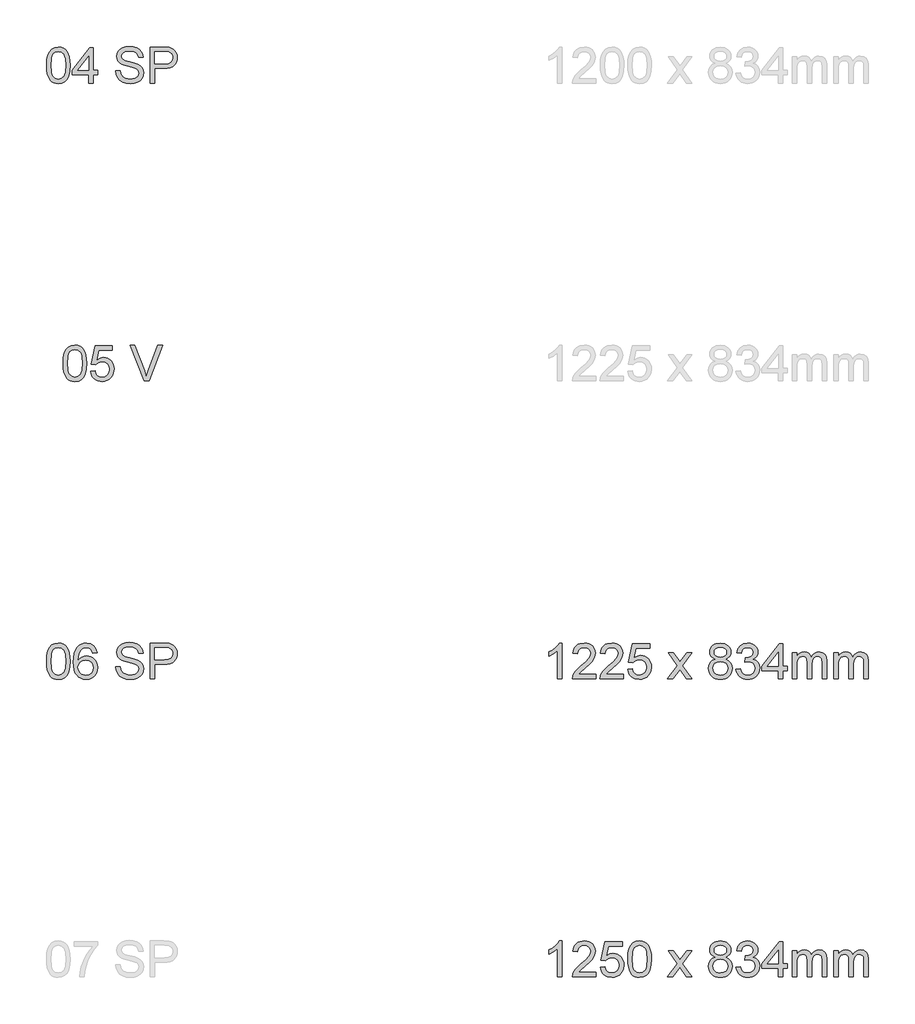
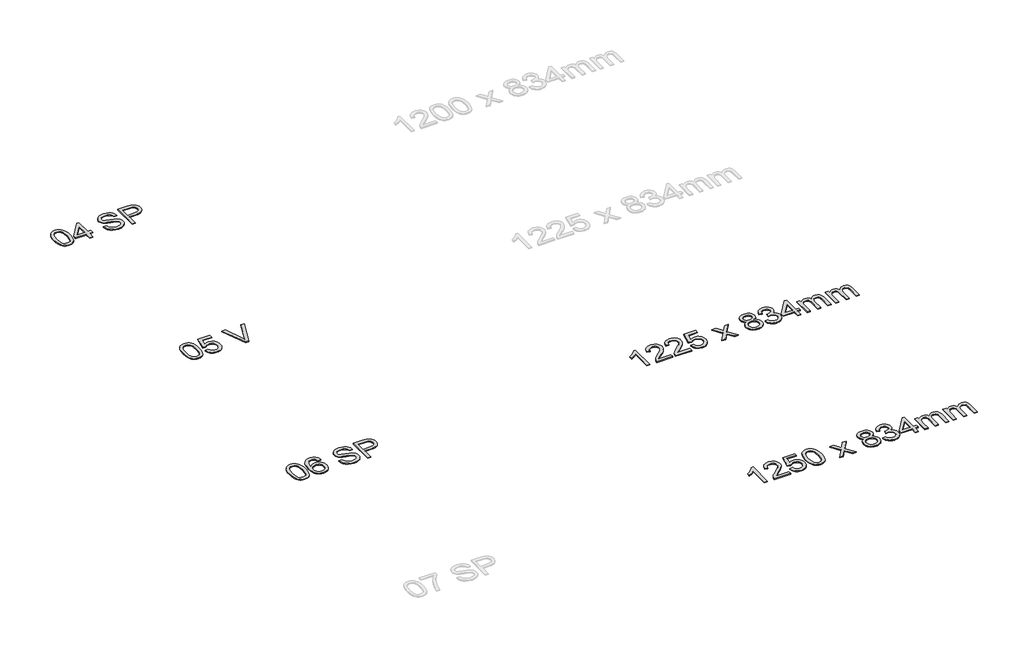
# One storey, part 22 of 67: 5 proxies.
"""IFC4 building model written with IfcOpenShell, lengths in millimetres."""

from ifc_helpers import new_model, si_unit, origin, origin_with_axes, place, context, project, spatial, polyline, outline, extrude, element, save

model = new_model("IFC4")

# Units and contexts
model_context = context("Model", 3, world=origin())
ifc_project = project(units=[si_unit("LENGTHUNIT", "METRE", prefix="MILLI")], contexts=[model_context])

# Site, building, storey
site = spatial("IfcSite", under=ifc_project)
building = spatial("IfcBuilding", under=site)
storey = spatial("IfcBuildingStorey", under=building, Name="Marelli - Linha COLAB - Planta Baixa", Elevation=0.0)

# Proxies
placement = place(None, origin())
element("IfcBuildingElementProxy", 1, Name="300mm Arial", ObjectType="300mm Arial", at=placement, inside=storey, context=model_context, shape_type="SweptSolid", body=[
    extrude(outline(polyline([(-25317.6891758, -6280.5663201), (-25355.3602921, -6280.5663201), (-25355.3602921, -6045.7104543), (-25391.0448457, -6071.1311002), (-25430.7025247, -6090.1505994), (-25430.7025247, -6054.5396222), (-25401.1156153, -6038.4447849), (-25375.4834373, -6019.2965271), (-25355.2775187, -5998.9342587), (-25341.9693875, -5979.1973896), (-25317.6891758, -5979.1973896), (-25317.6891758, -6280.5663201)])), origin_with_axes(), (0.0, 0.0, 1.0), 10.0),
    extrude(outline(polyline([(-25035.1558035, -6242.8952038), (-25035.1558035, -6280.5663201), (-25232.9291641, -6280.5663201), (-25228.8824622, -6254.5938512), (-25219.5934418, -6234.2959621), (-25206.0002021, -6214.6050783), (-25186.3369094, -6193.9944896), (-25158.8377303, -6170.9374855), (-25118.1867698, -6134.8298677), (-25093.7961935, -6108.1768171), (-25081.6009054, -6086.5453558), (-25077.5358094, -6065.5025057), (-25081.3709792, -6046.6393564), (-25092.8764886, -6030.9583863), (-25110.5624155, -6020.390976), (-25132.9388378, -6016.8685059), (-25156.4373003, -6020.3082026), (-25174.6934443, -6030.6272925), (-25186.4748652, -6047.0164354), (-25190.5491583, -6068.6662908), (-25228.2202746, -6063.9574013), (-25219.0876041, -6027.5186897), (-25210.5412455, -6012.9827524), (-25199.341538, -6000.9024273), (-25185.745999, -5991.4064733), (-25170.0121459, -5984.623649), (-25132.1294974, -5979.1973896), (-25111.9396737, -5980.7057058), (-25093.9709375, -5985.2306543), (-25078.2232888, -5992.7722352), (-25064.6967277, -6003.3304485), (-25053.8327126, -6016.1235449), (-25046.0727017, -6030.3697751), (-25041.4166952, -6046.0691393), (-25039.8646931, -6063.2216373), (-25041.5385561, -6081.238658), (-25046.5601454, -6098.942979), (-25055.4720867, -6116.9508027), (-25068.8170061, -6135.8783314), (-25090.0897824, -6158.4754829), (-25122.7852948, -6187.4921753), (-25166.1217938, -6223.7285518), (-25183.117942, -6242.8952038), (-25035.1558035, -6242.8952038)])), origin_with_axes(), (0.0, 0.0, 1.0), 10.0),
    extrude(outline(polyline([(-24804.4202161, -6242.8952038), (-24804.4202161, -6280.5663201), (-25002.1935767, -6280.5663201), (-24998.1468748, -6254.5938512), (-24988.8578544, -6234.2959621), (-24975.2646147, -6214.6050783), (-24955.6013221, -6193.9944896), (-24928.1021429, -6170.9374855), (-24887.4511825, -6134.8298677), (-24863.0606062, -6108.1768171), (-24850.865318, -6086.5453558), (-24846.800222, -6065.5025057), (-24850.6353918, -6046.6393564), (-24862.1409012, -6030.9583863), (-24879.8268281, -6020.390976), (-24902.2032505, -6016.8685059), (-24925.7017129, -6020.3082026), (-24943.9578569, -6030.6272925), (-24955.7392778, -6047.0164354), (-24959.8135709, -6068.6662908), (-24997.4846872, -6063.9574013), (-24988.3520167, -6027.5186897), (-24979.8056581, -6012.9827524), (-24968.6059506, -6000.9024273), (-24955.0104116, -5991.4064733), (-24939.2765585, -5984.623649), (-24901.3939101, -5979.1973896), (-24881.2040863, -5980.7057058), (-24863.2353501, -5985.2306543), (-24847.4877015, -5992.7722352), (-24833.9611404, -6003.3304485), (-24823.0971252, -6016.1235449), (-24815.3371143, -6030.3697751), (-24810.6811078, -6046.0691393), (-24809.1291057, -6063.2216373), (-24810.8029688, -6081.238658), (-24815.824558, -6098.942979), (-24824.7364993, -6116.9508027), (-24838.0814187, -6135.8783314), (-24859.3541951, -6158.4754829), (-24892.0497074, -6187.4921753), (-24935.3862064, -6223.7285518), (-24952.3823546, -6242.8952038), (-24804.4202161, -6242.8952038)])), origin_with_axes(), (0.0, 0.0, 1.0), 10.0),
    extrude(outline(polyline([(-24766.7490998, -6200.5151979), (-24729.0779835, -6195.8063084), (-24722.161802, -6218.421854), (-24710.0952726, -6234.6178589), (-24692.9335775, -6244.3575347), (-24670.7318991, -6247.6040933), (-24643.7293606, -6243.0883418), (-24623.4958509, -6229.5410873), (-24610.8591044, -6208.5258284), (-24606.6468555, -6181.6060634), (-24610.5923899, -6156.2589939), (-24622.4289931, -6136.8716128), (-24642.2486356, -6124.56596), (-24670.1432879, -6120.4640758), (-24688.417826, -6122.1011506), (-24703.2158793, -6127.0123753), (-24724.369094, -6144.0085235), (-24762.0402103, -6139.2996339), (-24729.0779835, -5983.9062792), (-24583.1024078, -5983.9062792), (-24583.1024078, -6021.5773955), (-24698.6173543, -6021.5773955), (-24714.7305857, -6104.5715736), (-24687.8200178, -6088.237613), (-24659.6218628, -6082.7929595), (-24641.2760476, -6084.4806181), (-24624.424753, -6089.5435941), (-24609.0679789, -6097.9818873), (-24595.2057255, -6109.7954979), (-24583.7301065, -6124.2624574), (-24575.5332358, -6140.6607973), (-24570.6151134, -6158.9905177), (-24568.9757392, -6179.2516186), (-24574.8802453, -6216.9227349), (-24582.2608778, -6233.716548), (-24592.5937633, -6249.1491977), (-24608.2471422, -6264.9543279), (-24626.5124833, -6276.2437066), (-24647.3897865, -6283.0173339), (-24670.8790519, -6285.2752096), (-24707.8787836, -6279.4718711), (-24723.5574543, -6272.217698), (-24737.3553284, -6262.0618557), (-24748.8355459, -6249.5101819), (-24757.561247, -6235.0685143), (-24766.7490998, -6200.5151979)])), origin_with_axes(), (0.0, 0.0, 1.0), 10.0),
    extrude(outline(polyline([(-24432.4179426, -6280.5663201), (-24351.9253621, -6169.3188047), (-24427.7090531, -6059.2485118), (-24382.3859913, -6059.2485118), (-24345.818521, -6112.2235191), (-24328.7487964, -6137.2394947), (-24313.9599402, -6116.7852558), (-24272.3156983, -6059.2485118), (-24226.9926365, -6059.2485118), (-24306.6023003, -6169.3188047), (-24229.9356925, -6280.5663201), (-24275.2587543, -6280.5663201), (-24321.3911565, -6213.6853733), (-24329.8524424, -6201.4716911), (-24387.0948808, -6280.5663201), (-24432.4179426, -6280.5663201)])), origin_with_axes(), (0.0, 0.0, 1.0), 10.0),
    extrude(outline(polyline([(-24033.7810126, -6114.5779638), (-24053.950143, -6104.64515), (-24068.1044028, -6091.180669), (-24076.4645211, -6074.4604323), (-24079.2512273, -6054.7603514), (-24077.733714, -6039.3966796), (-24073.1811743, -6025.3113977), (-24065.5936082, -6012.5045058), (-24054.9710156, -6000.9760037), (-24041.8238328, -5991.4478601), (-24026.662496, -5984.6420431), (-23990.2973608, -5979.1973896), (-23953.7114964, -5984.7708018), (-23938.3846128, -5991.7375671), (-23925.0350949, -6001.4910385), (-23914.2193642, -6013.2448683), (-23906.4938423, -6026.2127086), (-23901.8585292, -6040.3945595), (-23900.3134248, -6055.790421), (-23903.0633427, -6074.8559054), (-23911.3130965, -6091.2910335), (-23925.1546565, -6104.6727411), (-23944.6799934, -6114.5779638), (-23921.4942307, -6126.5249316), (-23904.6176441, -6144.1188881), (-23894.3261453, -6166.5137045), (-23890.8956457, -6192.8632524), (-23892.5970999, -6211.6528253), (-23897.7014626, -6228.8788997), (-23906.2087338, -6244.5414757), (-23918.1189134, -6258.6405532), (-23932.806602, -6270.2932154), (-23949.6464003, -6278.6165455), (-23968.6383084, -6283.6105436), (-23989.782326, -6285.2752096), (-24010.9263437, -6283.6036458), (-24029.9182517, -6278.5889543), (-24046.75805, -6270.2311353), (-24061.4457387, -6258.5301886), (-24073.3559183, -6244.3322428), (-24081.8631894, -6228.4834266), (-24086.9675521, -6210.9837399), (-24088.6690063, -6191.8331828), (-24085.100551, -6164.4627624), (-24074.3951849, -6141.9483843), (-24057.1047311, -6125.0626007), (-24033.7810126, -6114.5779638)]), holes=[polyline([(-24041.5801109, -6055.8639974), (-24038.2415818, -6072.3083226), (-24028.2259945, -6085.4417098), (-24011.8276546, -6094.0501485), (-23989.3408676, -6096.9196281), (-23967.3783125, -6094.0685426), (-23951.2282929, -6085.5152862), (-23941.2954791, -6072.8233574), (-23937.9845411, -6057.5562546), (-23941.4058437, -6041.7097376), (-23951.6697513, -6028.6039416), (-23968.0405001, -6019.8023648), (-23989.782326, -6016.8685059), (-24011.6621077, -6019.7379855), (-24028.0052653, -6028.3464242), (-24038.1863995, -6040.9647766), (-24041.5801109, -6055.8639974)]), polyline([(-24050.99789, -6190.5088076), (-24044.7071079, -6218.8725095), (-24035.9975017, -6231.0402065), (-24022.4502472, -6240.0993006), (-24006.2266512, -6245.7278951), (-23989.4880204, -6247.6040933), (-23963.8466454, -6243.6585589), (-23944.606417, -6231.8219557), (-23932.5766758, -6213.8969055), (-23928.566762, -6191.68603), (-23932.7054345, -6169.0980755), (-23945.1214518, -6150.7775522), (-23964.8031386, -6138.6374463), (-23990.7388192, -6134.5907444), (-24016.0215093, -6138.582264), (-24035.0685996, -6150.556823), (-24047.0155674, -6168.5278584), (-24050.99789, -6190.5088076)])]), origin_with_axes(), (0.0, 0.0, 1.0), 10.0),
    extrude(outline(polyline([(-23857.933419, -6200.5151979), (-23820.2623026, -6195.8063084), (-23811.8286079, -6219.4795148), (-23799.4769699, -6235.4639875), (-23782.6003834, -6244.5690668), (-23760.591843, -6247.6040933), (-23734.766527, -6243.4286327), (-23714.8273228, -6230.9022507), (-23702.0802117, -6212.2138454), (-23697.8311747, -6189.5523145), (-23702.0434235, -6168.0404148), (-23714.68017, -6150.5936112), (-23733.8100338, -6139.0329195), (-23757.5016343, -6135.1793556), (-23783.9155615, -6139.2996339), (-23779.7217068, -6101.6285176), (-23773.6884421, -6102.069976), (-23751.1188817, -6099.3660433), (-23730.9405542, -6091.2542454), (-23716.703521, -6077.5322469), (-23711.9578433, -6057.997713), (-23715.3975399, -6041.7281317), (-23725.7166299, -6028.5303652), (-23741.4619793, -6019.7839707), (-23761.1804542, -6016.8685059), (-23780.9357174, -6019.8115619), (-23797.0857369, -6028.6407298), (-23808.8763549, -6043.3560096), (-23815.5534131, -6063.9574013), (-23853.2245294, -6059.2485118), (-23842.1328873, -6025.4217623), (-23822.3960182, -6000.1666633), (-23795.3934798, -5984.4397081), (-23762.5048294, -5979.1973896), (-23738.822426, -5981.7817606), (-23717.071403, -5989.5348737), (-23698.7324855, -6001.76695), (-23685.2863986, -6017.7882109), (-23677.0366449, -6036.24669), (-23674.286727, -6055.790421), (-23676.8986891, -6074.0005798), (-23684.7345756, -6090.5184814), (-23697.6840219, -6104.5899677), (-23715.6366632, -6115.4608806), (-23692.0554273, -6124.9890243), (-23674.5810326, -6141.2126203), (-23663.7653019, -6163.2487518), (-23660.1600583, -6190.2145021), (-23661.9626801, -6209.3259717), (-23667.3705455, -6226.9291252), (-23676.3836543, -6243.0239625), (-23689.0020068, -6257.6104836), (-23704.3748756, -6269.7138012), (-23721.6515338, -6278.3590281), (-23740.8319814, -6283.5461642), (-23761.9162182, -6285.2752096), (-23780.9725056, -6283.7990831), (-23798.3365357, -6279.3707036), (-23814.0083087, -6271.9900711), (-23827.9878245, -6261.6571855), (-23839.7094646, -6248.9790523), (-23848.6076104, -6234.5626766), (-23854.6822618, -6218.4080585), (-23857.933419, -6200.5151979)])), origin_with_axes(), (0.0, 0.0, 1.0), 10.0),
    extrude(outline(polyline([(-23504.7667036, -6280.5663201), (-23504.7667036, -6209.932977), (-23641.3245002, -6209.932977), (-23641.3245002, -6172.2618607), (-23495.3489245, -5983.9062792), (-23467.0955873, -5983.9062792), (-23467.0955873, -6172.2618607), (-23429.424471, -6172.2618607), (-23429.424471, -6209.932977), (-23467.0955873, -6209.932977), (-23467.0955873, -6280.5663201), (-23504.7667036, -6280.5663201)]), holes=[polyline([(-23504.7667036, -6172.2618607), (-23504.7667036, -6055.8639974), (-23594.9713688, -6172.2618607), (-23504.7667036, -6172.2618607)])]), origin_with_axes(), (0.0, 0.0, 1.0), 10.0),
    extrude(outline(polyline([(-23387.0444651, -6280.5663201), (-23387.0444651, -6059.2485118), (-23349.3733488, -6059.2485118), (-23349.3733488, -6095.6688293), (-23338.0425834, -6078.9393956), (-23323.4744564, -6065.8335995), (-23306.1656085, -6057.3631165), (-23286.6126804, -6054.5396222), (-23265.6618008, -6057.4182988), (-23248.8679877, -6066.0543287), (-23236.3232117, -6079.8774946), (-23228.1194432, -6098.3175797), (-23214.3882477, -6079.1647233), (-23198.7256718, -6065.4841116), (-23181.1317154, -6057.2757446), (-23161.6063785, -6054.5396222), (-23133.2886619, -6059.0921619), (-23112.3469793, -6072.749781), (-23099.4067301, -6095.8803614), (-23095.0933138, -6128.8517853), (-23095.0933138, -6280.5663201), (-23132.7644301, -6280.5663201), (-23132.7644301, -6145.038593), (-23136.259309, -6113.5846825), (-23141.1705336, -6104.9118644), (-23148.9144496, -6098.0968505), (-23158.8748547, -6093.6822665), (-23170.4355464, -6092.2107385), (-23190.8438, -6095.981529), (-23207.4812633, -6107.2939003), (-23218.5453143, -6126.9204048), (-23222.2333313, -6155.6335945), (-23222.2333313, -6280.5663201), (-23259.9044476, -6280.5663201), (-23259.9044476, -6140.8447383), (-23262.0841484, -6119.5443708), (-23268.6232509, -6104.3508444), (-23280.1287603, -6095.245765), (-23297.2076819, -6092.2107385), (-23311.7206266, -6094.2340895), (-23325.0931371, -6100.3041424), (-23336.129597, -6110.2737445), (-23343.6343897, -6123.9957429), (-23347.938609, -6143.0336362), (-23349.3733488, -6168.9509227), (-23349.3733488, -6280.5663201), (-23387.0444651, -6280.5663201)])), origin_with_axes(), (0.0, 0.0, 1.0), 10.0),
    extrude(outline(polyline([(-23038.5866393, -6280.5663201), (-23038.5866393, -6059.2485118), (-23000.915523, -6059.2485118), (-23000.915523, -6095.6688293), (-22989.5847575, -6078.9393956), (-22975.0166305, -6065.8335995), (-22957.7077827, -6057.3631165), (-22938.1548546, -6054.5396222), (-22917.203975, -6057.4182988), (-22900.4101619, -6066.0543287), (-22887.8653859, -6079.8774946), (-22879.6616174, -6098.3175797), (-22865.9304219, -6079.1647233), (-22850.267846, -6065.4841116), (-22832.6738895, -6057.2757446), (-22813.1485526, -6054.5396222), (-22784.8308361, -6059.0921619), (-22763.8891535, -6072.749781), (-22750.9489043, -6095.8803614), (-22746.6354879, -6128.8517853), (-22746.6354879, -6280.5663201), (-22784.3066042, -6280.5663201), (-22784.3066042, -6145.038593), (-22787.8014832, -6113.5846825), (-22792.7127078, -6104.9118644), (-22800.4566238, -6098.0968505), (-22810.4170288, -6093.6822665), (-22821.9777205, -6092.2107385), (-22842.3859742, -6095.981529), (-22859.0234374, -6107.2939003), (-22870.0874885, -6126.9204048), (-22873.7755055, -6155.6335945), (-22873.7755055, -6280.5663201), (-22911.4466218, -6280.5663201), (-22911.4466218, -6140.8447383), (-22913.6263226, -6119.5443708), (-22920.165425, -6104.3508444), (-22931.6709344, -6095.245765), (-22948.7498561, -6092.2107385), (-22963.2628008, -6094.2340895), (-22976.6353113, -6100.3041424), (-22987.6717712, -6110.2737445), (-22995.1765639, -6123.9957429), (-22999.4807832, -6143.0336362), (-23000.915523, -6168.9509227), (-23000.915523, -6280.5663201), (-23038.5866393, -6280.5663201)])), origin_with_axes(), (0.0, 0.0, 1.0), 10.0),
])
element("IfcBuildingElementProxy", 2, Name="300mm Arial", ObjectType="300mm Arial", at=placement, inside=storey, context=model_context, shape_type="SweptSolid", body=[
    extrude(outline(polyline([(-25317.6891758, -8780.5663201), (-25355.3602921, -8780.5663201), (-25355.3602921, -8545.7104543), (-25391.0448457, -8571.1311002), (-25430.7025247, -8590.1505994), (-25430.7025247, -8554.5396222), (-25401.1156153, -8538.4447849), (-25375.4834373, -8519.2965271), (-25355.2775187, -8498.9342587), (-25341.9693875, -8479.1973896), (-25317.6891758, -8479.1973896), (-25317.6891758, -8780.5663201)])), origin_with_axes(), (0.0, 0.0, 1.0), 10.0),
    extrude(outline(polyline([(-25035.1558035, -8742.8952038), (-25035.1558035, -8780.5663201), (-25232.9291641, -8780.5663201), (-25228.8824622, -8754.5938512), (-25219.5934418, -8734.2959621), (-25206.0002021, -8714.6050783), (-25186.3369094, -8693.9944896), (-25158.8377303, -8670.9374855), (-25118.1867698, -8634.8298677), (-25093.7961935, -8608.1768171), (-25081.6009054, -8586.5453558), (-25077.5358094, -8565.5025057), (-25081.3709792, -8546.6393564), (-25092.8764886, -8530.9583863), (-25110.5624155, -8520.390976), (-25132.9388378, -8516.8685059), (-25156.4373003, -8520.3082026), (-25174.6934443, -8530.6272925), (-25186.4748652, -8547.0164354), (-25190.5491583, -8568.6662908), (-25228.2202746, -8563.9574013), (-25219.0876041, -8527.5186897), (-25210.5412455, -8512.9827524), (-25199.341538, -8500.9024273), (-25185.745999, -8491.4064733), (-25170.0121459, -8484.623649), (-25132.1294974, -8479.1973896), (-25111.9396737, -8480.7057058), (-25093.9709375, -8485.2306543), (-25078.2232888, -8492.7722352), (-25064.6967277, -8503.3304485), (-25053.8327126, -8516.1235449), (-25046.0727017, -8530.3697751), (-25041.4166952, -8546.0691393), (-25039.8646931, -8563.2216373), (-25041.5385561, -8581.238658), (-25046.5601454, -8598.942979), (-25055.4720867, -8616.9508027), (-25068.8170061, -8635.8783314), (-25090.0897824, -8658.4754829), (-25122.7852948, -8687.4921753), (-25166.1217938, -8723.7285518), (-25183.117942, -8742.8952038), (-25035.1558035, -8742.8952038)])), origin_with_axes(), (0.0, 0.0, 1.0), 10.0),
    extrude(outline(polyline([(-24997.4846872, -8700.5151979), (-24959.8135709, -8695.8063084), (-24952.8973894, -8718.421854), (-24940.83086, -8734.6178589), (-24923.6691649, -8744.3575347), (-24901.4674865, -8747.6040933), (-24874.464948, -8743.0883418), (-24854.2314383, -8729.5410873), (-24841.5946918, -8708.5258284), (-24837.3824429, -8681.6060634), (-24841.3279773, -8656.2589939), (-24853.1645805, -8636.8716128), (-24872.984223, -8624.56596), (-24900.8788753, -8620.4640758), (-24919.1534134, -8622.1011506), (-24933.9514666, -8627.0123753), (-24955.1046814, -8644.0085235), (-24992.7757977, -8639.2996339), (-24959.8135709, -8483.9062792), (-24813.8379952, -8483.9062792), (-24813.8379952, -8521.5773955), (-24929.3529417, -8521.5773955), (-24945.4661731, -8604.5715736), (-24918.5556051, -8588.237613), (-24890.3574502, -8582.7929595), (-24872.011635, -8584.4806181), (-24855.1603403, -8589.5435941), (-24839.8035663, -8597.9818873), (-24825.9413129, -8609.7954979), (-24814.4656939, -8624.2624574), (-24806.2688232, -8640.6607973), (-24801.3507007, -8658.9905177), (-24799.7113266, -8679.2516186), (-24805.6158326, -8716.9227349), (-24812.9964652, -8733.716548), (-24823.3293507, -8749.1491977), (-24838.9827296, -8764.9543279), (-24857.2480707, -8776.2437066), (-24878.1253739, -8783.0173339), (-24901.6146393, -8785.2752096), (-24938.6143709, -8779.4718711), (-24954.2930417, -8772.217698), (-24968.0909158, -8762.0618557), (-24979.5711333, -8749.5101819), (-24988.2968344, -8735.0685143), (-24997.4846872, -8700.5151979)])), origin_with_axes(), (0.0, 0.0, 1.0), 10.0),
    extrude(outline(polyline([(-24766.7490998, -8632.309876), (-24763.9807878, -8584.0713494), (-24755.6758518, -8545.6000897), (-24741.9170652, -8516.3074859), (-24722.7872014, -8495.6049266), (-24698.1483048, -8483.2992739), (-24667.8624195, -8479.1973896), (-24644.6490656, -8481.6254108), (-24623.8637329, -8488.9094743), (-24606.4813086, -8500.7644716), (-24593.4766801, -8516.9052941), (-24583.6542308, -8537.1939862), (-24575.8183443, -8561.4925919), (-24570.6863905, -8592.3486943), (-24568.9757392, -8632.309876), (-24571.7164601, -8680.2724911), (-24579.9386227, -8718.6517803), (-24593.6146359, -8747.9719753), (-24612.7169085, -8768.757308), (-24637.4109874, -8781.1457342), (-24667.8624195, -8785.2752096), (-24688.6109641, -8783.4817849), (-24707.0050638, -8778.1015107), (-24723.0447188, -8769.1343871), (-24736.729929, -8756.580414), (-24749.8633163, -8733.8866934), (-24759.2443071, -8705.6103636), (-24764.8729017, -8671.7514244), (-24766.7490998, -8632.309876)]), holes=[polyline([(-24729.0779835, -8632.2362996), (-24724.6633996, -8691.492892), (-24719.1451697, -8711.7608907), (-24711.4196478, -8725.788691), (-24691.7011728, -8742.1502427), (-24667.8624195, -8747.6040933), (-24644.0236662, -8742.1318486), (-24624.3051913, -8725.7151146), (-24616.5796694, -8711.6643216), (-24611.0614395, -8691.4009215), (-24606.6468555, -8632.2362996), (-24610.9142867, -8574.3132795), (-24616.2485756, -8554.1119594), (-24623.7165801, -8539.750766), (-24643.3982669, -8522.589071), (-24668.3038779, -8516.8685059), (-24691.8851138, -8521.9084893), (-24710.8310366, -8537.0284393), (-24718.8140759, -8552.6634241), (-24724.5162468, -8573.7430624), (-24729.0779835, -8632.2362996)])]), origin_with_axes(), (0.0, 0.0, 1.0), 10.0),
    extrude(outline(polyline([(-24432.4179426, -8780.5663201), (-24351.9253621, -8669.3188047), (-24427.7090531, -8559.2485118), (-24382.3859913, -8559.2485118), (-24345.818521, -8612.2235191), (-24328.7487964, -8637.2394947), (-24313.9599402, -8616.7852558), (-24272.3156983, -8559.2485118), (-24226.9926365, -8559.2485118), (-24306.6023003, -8669.3188047), (-24229.9356925, -8780.5663201), (-24275.2587543, -8780.5663201), (-24321.3911565, -8713.6853733), (-24329.8524424, -8701.4716911), (-24387.0948808, -8780.5663201), (-24432.4179426, -8780.5663201)])), origin_with_axes(), (0.0, 0.0, 1.0), 10.0),
    extrude(outline(polyline([(-24033.7810126, -8614.5779638), (-24053.950143, -8604.64515), (-24068.1044028, -8591.180669), (-24076.4645211, -8574.4604323), (-24079.2512273, -8554.7603514), (-24077.733714, -8539.3966796), (-24073.1811743, -8525.3113977), (-24065.5936082, -8512.5045058), (-24054.9710156, -8500.9760037), (-24041.8238328, -8491.4478601), (-24026.662496, -8484.6420431), (-23990.2973608, -8479.1973896), (-23953.7114964, -8484.7708018), (-23938.3846128, -8491.7375671), (-23925.0350949, -8501.4910385), (-23914.2193642, -8513.2448683), (-23906.4938423, -8526.2127086), (-23901.8585292, -8540.3945595), (-23900.3134248, -8555.790421), (-23903.0633427, -8574.8559054), (-23911.3130965, -8591.2910335), (-23925.1546565, -8604.6727411), (-23944.6799934, -8614.5779638), (-23921.4942307, -8626.5249316), (-23904.6176441, -8644.1188881), (-23894.3261453, -8666.5137045), (-23890.8956457, -8692.8632524), (-23892.5970999, -8711.6528253), (-23897.7014626, -8728.8788997), (-23906.2087338, -8744.5414757), (-23918.1189134, -8758.6405532), (-23932.806602, -8770.2932154), (-23949.6464003, -8778.6165455), (-23968.6383084, -8783.6105436), (-23989.782326, -8785.2752096), (-24010.9263437, -8783.6036458), (-24029.9182517, -8778.5889543), (-24046.75805, -8770.2311353), (-24061.4457387, -8758.5301886), (-24073.3559183, -8744.3322428), (-24081.8631894, -8728.4834266), (-24086.9675521, -8710.9837399), (-24088.6690063, -8691.8331828), (-24085.100551, -8664.4627624), (-24074.3951849, -8641.9483843), (-24057.1047311, -8625.0626007), (-24033.7810126, -8614.5779638)]), holes=[polyline([(-24050.99789, -8690.5088076), (-24044.7071079, -8718.8725095), (-24035.9975017, -8731.0402065), (-24022.4502472, -8740.0993006), (-24006.2266512, -8745.7278951), (-23989.4880204, -8747.6040933), (-23963.8466454, -8743.6585589), (-23944.606417, -8731.8219557), (-23932.5766758, -8713.8969055), (-23928.566762, -8691.68603), (-23932.7054345, -8669.0980755), (-23945.1214518, -8650.7775522), (-23964.8031386, -8638.6374463), (-23990.7388192, -8634.5907444), (-24016.0215093, -8638.582264), (-24035.0685996, -8650.556823), (-24047.0155674, -8668.5278584), (-24050.99789, -8690.5088076)]), polyline([(-24041.5801109, -8555.8639974), (-24038.2415818, -8572.3083226), (-24028.2259945, -8585.4417098), (-24011.8276546, -8594.0501485), (-23989.3408676, -8596.9196281), (-23967.3783125, -8594.0685426), (-23951.2282929, -8585.5152862), (-23941.2954791, -8572.8233574), (-23937.9845411, -8557.5562546), (-23941.4058437, -8541.7097376), (-23951.6697513, -8528.6039416), (-23968.0405001, -8519.8023648), (-23989.782326, -8516.8685059), (-24011.6621077, -8519.7379855), (-24028.0052653, -8528.3464242), (-24038.1863995, -8540.9647766), (-24041.5801109, -8555.8639974)])]), origin_with_axes(), (0.0, 0.0, 1.0), 10.0),
    extrude(outline(polyline([(-23857.933419, -8700.5151979), (-23820.2623026, -8695.8063084), (-23811.8286079, -8719.4795148), (-23799.4769699, -8735.4639875), (-23782.6003834, -8744.5690668), (-23760.591843, -8747.6040933), (-23734.766527, -8743.4286327), (-23714.8273228, -8730.9022507), (-23702.0802117, -8712.2138454), (-23697.8311747, -8689.5523145), (-23702.0434235, -8668.0404148), (-23714.68017, -8650.5936112), (-23733.8100338, -8639.0329195), (-23757.5016343, -8635.1793556), (-23783.9155615, -8639.2996339), (-23779.7217068, -8601.6285176), (-23773.6884421, -8602.069976), (-23751.1188817, -8599.3660433), (-23730.9405542, -8591.2542454), (-23716.703521, -8577.5322469), (-23711.9578433, -8557.997713), (-23715.3975399, -8541.7281317), (-23725.7166299, -8528.5303652), (-23741.4619793, -8519.7839707), (-23761.1804542, -8516.8685059), (-23780.9357174, -8519.8115619), (-23797.0857369, -8528.6407298), (-23808.8763549, -8543.3560096), (-23815.5534131, -8563.9574013), (-23853.2245294, -8559.2485118), (-23842.1328873, -8525.4217623), (-23822.3960182, -8500.1666633), (-23795.3934798, -8484.4397081), (-23762.5048294, -8479.1973896), (-23738.822426, -8481.7817606), (-23717.071403, -8489.5348737), (-23698.7324855, -8501.76695), (-23685.2863986, -8517.7882109), (-23677.0366449, -8536.24669), (-23674.286727, -8555.790421), (-23676.8986891, -8574.0005798), (-23684.7345756, -8590.5184814), (-23697.6840219, -8604.5899677), (-23715.6366632, -8615.4608806), (-23692.0554273, -8624.9890243), (-23674.5810326, -8641.2126203), (-23663.7653019, -8663.2487518), (-23660.1600583, -8690.2145021), (-23661.9626801, -8709.3259717), (-23667.3705455, -8726.9291252), (-23676.3836543, -8743.0239625), (-23689.0020068, -8757.6104836), (-23704.3748756, -8769.7138012), (-23721.6515338, -8778.3590281), (-23740.8319814, -8783.5461642), (-23761.9162182, -8785.2752096), (-23780.9725056, -8783.7990831), (-23798.3365357, -8779.3707036), (-23814.0083087, -8771.9900711), (-23827.9878245, -8761.6571855), (-23839.7094646, -8748.9790523), (-23848.6076104, -8734.5626766), (-23854.6822618, -8718.4080585), (-23857.933419, -8700.5151979)])), origin_with_axes(), (0.0, 0.0, 1.0), 10.0),
    extrude(outline(polyline([(-23504.7667036, -8780.5663201), (-23504.7667036, -8709.932977), (-23641.3245002, -8709.932977), (-23641.3245002, -8672.2618607), (-23495.3489245, -8483.9062792), (-23467.0955873, -8483.9062792), (-23467.0955873, -8672.2618607), (-23429.424471, -8672.2618607), (-23429.424471, -8709.932977), (-23467.0955873, -8709.932977), (-23467.0955873, -8780.5663201), (-23504.7667036, -8780.5663201)]), holes=[polyline([(-23504.7667036, -8672.2618607), (-23504.7667036, -8555.8639974), (-23594.9713688, -8672.2618607), (-23504.7667036, -8672.2618607)])]), origin_with_axes(), (0.0, 0.0, 1.0), 10.0),
    extrude(outline(polyline([(-23387.0444651, -8780.5663201), (-23387.0444651, -8559.2485118), (-23349.3733488, -8559.2485118), (-23349.3733488, -8595.6688293), (-23338.0425834, -8578.9393956), (-23323.4744564, -8565.8335995), (-23306.1656085, -8557.3631165), (-23286.6126804, -8554.5396222), (-23265.6618008, -8557.4182988), (-23248.8679877, -8566.0543287), (-23236.3232117, -8579.8774946), (-23228.1194432, -8598.3175797), (-23214.3882477, -8579.1647233), (-23198.7256718, -8565.4841116), (-23181.1317154, -8557.2757446), (-23161.6063785, -8554.5396222), (-23133.2886619, -8559.0921619), (-23112.3469793, -8572.749781), (-23099.4067301, -8595.8803614), (-23095.0933138, -8628.8517853), (-23095.0933138, -8780.5663201), (-23132.7644301, -8780.5663201), (-23132.7644301, -8645.038593), (-23136.259309, -8613.5846825), (-23141.1705336, -8604.9118644), (-23148.9144496, -8598.0968505), (-23158.8748547, -8593.6822665), (-23170.4355464, -8592.2107385), (-23190.8438, -8595.981529), (-23207.4812633, -8607.2939003), (-23218.5453143, -8626.9204048), (-23222.2333313, -8655.6335945), (-23222.2333313, -8780.5663201), (-23259.9044476, -8780.5663201), (-23259.9044476, -8640.8447383), (-23262.0841484, -8619.5443708), (-23268.6232509, -8604.3508444), (-23280.1287603, -8595.245765), (-23297.2076819, -8592.2107385), (-23311.7206266, -8594.2340895), (-23325.0931371, -8600.3041424), (-23336.129597, -8610.2737445), (-23343.6343897, -8623.9957429), (-23347.938609, -8643.0336362), (-23349.3733488, -8668.9509227), (-23349.3733488, -8780.5663201), (-23387.0444651, -8780.5663201)])), origin_with_axes(), (0.0, 0.0, 1.0), 10.0),
    extrude(outline(polyline([(-23038.5866393, -8780.5663201), (-23038.5866393, -8559.2485118), (-23000.915523, -8559.2485118), (-23000.915523, -8595.6688293), (-22989.5847575, -8578.9393956), (-22975.0166305, -8565.8335995), (-22957.7077827, -8557.3631165), (-22938.1548546, -8554.5396222), (-22917.203975, -8557.4182988), (-22900.4101619, -8566.0543287), (-22887.8653859, -8579.8774946), (-22879.6616174, -8598.3175797), (-22865.9304219, -8579.1647233), (-22850.267846, -8565.4841116), (-22832.6738895, -8557.2757446), (-22813.1485526, -8554.5396222), (-22784.8308361, -8559.0921619), (-22763.8891535, -8572.749781), (-22750.9489043, -8595.8803614), (-22746.6354879, -8628.8517853), (-22746.6354879, -8780.5663201), (-22784.3066042, -8780.5663201), (-22784.3066042, -8645.038593), (-22787.8014832, -8613.5846825), (-22792.7127078, -8604.9118644), (-22800.4566238, -8598.0968505), (-22810.4170288, -8593.6822665), (-22821.9777205, -8592.2107385), (-22842.3859742, -8595.981529), (-22859.0234374, -8607.2939003), (-22870.0874885, -8626.9204048), (-22873.7755055, -8655.6335945), (-22873.7755055, -8780.5663201), (-22911.4466218, -8780.5663201), (-22911.4466218, -8640.8447383), (-22913.6263226, -8619.5443708), (-22920.165425, -8604.3508444), (-22931.6709344, -8595.245765), (-22948.7498561, -8592.2107385), (-22963.2628008, -8594.2340895), (-22976.6353113, -8600.3041424), (-22987.6717712, -8610.2737445), (-22995.1765639, -8623.9957429), (-22999.4807832, -8643.0336362), (-23000.915523, -8668.9509227), (-23000.915523, -8780.5663201), (-23038.5866393, -8780.5663201)])), origin_with_axes(), (0.0, 0.0, 1.0), 10.0),
])
element("IfcBuildingElementProxy", 3, Name="300mm Arial", ObjectType="300mm Arial", at=placement, inside=storey, context=model_context, shape_type="SweptSolid", body=[
    extrude(outline(polyline([(-29646.6724166, -1132.309876), (-29643.9041046, -1084.0713494), (-29635.5991686, -1045.6000897), (-29621.8403819, -1016.3074859), (-29602.7105182, -995.6049266), (-29578.0716216, -983.2992739), (-29547.7857363, -979.1973896), (-29524.5723824, -981.6254108), (-29503.7870497, -988.9094743), (-29486.4046254, -1000.7644716), (-29473.3999969, -1016.9052941), (-29463.5775476, -1037.1939862), (-29455.7416611, -1061.4925919), (-29450.6097073, -1092.3486943), (-29448.899056, -1132.309876), (-29451.6397769, -1180.2724911), (-29459.8619395, -1218.6517803), (-29473.5379526, -1247.9719753), (-29492.6402252, -1268.757308), (-29517.3343042, -1281.1457342), (-29547.7857363, -1285.2752096), (-29568.5342808, -1283.4817849), (-29586.9283806, -1278.1015107), (-29602.9680356, -1269.1343871), (-29616.6532458, -1256.580414), (-29629.786633, -1233.8866934), (-29639.1676239, -1205.6103636), (-29644.7962184, -1171.7514244), (-29646.6724166, -1132.309876)]), holes=[polyline([(-29609.0013003, -1132.2362996), (-29604.5867164, -1191.492892), (-29599.0684864, -1211.7608907), (-29591.3429645, -1225.788691), (-29571.6244896, -1242.1502427), (-29547.7857363, -1247.6040933), (-29523.946983, -1242.1318486), (-29504.2285081, -1225.7151146), (-29496.5029862, -1211.6643216), (-29490.9847563, -1191.4009215), (-29486.5701723, -1132.2362996), (-29490.8376035, -1074.3132795), (-29496.1718924, -1054.1119594), (-29503.6398969, -1039.750766), (-29523.3215836, -1022.589071), (-29548.2271947, -1016.8685059), (-29571.8084306, -1021.9084893), (-29590.7543533, -1037.0284393), (-29598.7373926, -1052.6634241), (-29604.4395636, -1073.7430624), (-29609.0013003, -1132.2362996)])]), origin_with_axes(), (0.0, 0.0, 1.0), 10.0),
    extrude(outline(polyline([(-29293.5057012, -1280.5663201), (-29293.5057012, -1209.932977), (-29430.0634979, -1209.932977), (-29430.0634979, -1172.2618607), (-29284.0879222, -983.9062792), (-29255.8345849, -983.9062792), (-29255.8345849, -1172.2618607), (-29218.1634686, -1172.2618607), (-29218.1634686, -1209.932977), (-29255.8345849, -1209.932977), (-29255.8345849, -1280.5663201), (-29293.5057012, -1280.5663201)]), holes=[polyline([(-29293.5057012, -1172.2618607), (-29293.5057012, -1055.8639974), (-29383.7103665, -1172.2618607), (-29293.5057012, -1172.2618607)])]), origin_with_axes(), (0.0, 0.0, 1.0), 10.0),
    extrude(outline(polyline([(-29067.4790034, -1176.9707502), (-29029.8078871, -1176.9707502), (-29025.4852737, -1197.8756446), (-29017.6677813, -1214.6786547), (-29005.4724931, -1228.0143771), (-28988.0164924, -1238.517408), (-28966.6793367, -1245.332422), (-28942.8405834, -1247.6040933), (-28921.8529156, -1245.884245), (-28903.47721, -1240.7247), (-28888.5871862, -1232.5577197), (-28878.0565641, -1221.8155654), (-28871.7933731, -1209.4823215), (-28869.7056428, -1196.5420724), (-28871.2691413, -1183.932917), (-28875.9596367, -1173.0344129), (-28885.4877804, -1163.7361954), (-28901.5642236, -1155.9279001), (-28956.4154291, -1141.5437141), (-28992.4218793, -1132.0247675), (-29015.4604893, -1122.9656733), (-29034.213274, -1110.2921386), (-29047.5030111, -1094.9330653), (-29055.421671, -1077.2195472), (-29058.0612243, -1057.4826782), (-29054.7962716, -1035.4189555), (-29045.0014135, -1014.845155), (-29028.9341674, -997.4075484), (-29006.8520506, -984.7524077), (-28980.3461528, -977.054477), (-28951.0075637, -974.4885001), (-28919.2225593, -977.1740386), (-28891.4106805, -985.2306543), (-28868.5652086, -998.4928003), (-28851.679425, -1016.7949295), (-28840.9924531, -1038.9966079), (-28836.743416, -1063.9574013), (-28874.4145323, -1063.9574013), (-28881.3307138, -1041.4798114), (-28895.7516881, -1025.2562154), (-28918.2844603, -1015.4337661), (-28949.5360358, -1012.1596164), (-28981.5233752, -1015.3969779), (-29003.4675362, -1025.1090626), (-29016.1594651, -1039.4012781), (-29020.390108, -1056.3790322), (-29017.3918698, -1070.8551887), (-29008.397155, -1082.4986539), (-28987.1335757, -1092.9097143), (-28946.8872854, -1103.541504), (-28905.3534081, -1113.6398648), (-28880.2270679, -1122.4506385), (-28858.7519564, -1136.1174547), (-28843.7699621, -1152.9848441), (-28834.9683854, -1172.868866), (-28832.0345265, -1195.5855792), (-28835.4098438, -1218.8081301), (-28845.5357957, -1240.6511236), (-28861.998515, -1259.4498935), (-28884.3841344, -1273.539774), (-28911.3038994, -1282.3413507), (-28941.3690555, -1285.2752096), (-28978.2768166, -1282.1114244), (-29008.6546724, -1272.620069), (-29032.8521106, -1256.764355), (-29051.2186192, -1234.5074943), (-29063.0092372, -1207.3945912), (-29067.4790034, -1176.9707502)])), origin_with_axes(), (0.0, 0.0, 1.0), 10.0),
    extrude(outline(polyline([(-28775.527852, -1280.5663201), (-28775.527852, -979.1973896), (-28663.8388783, -979.1973896), (-28618.8101221, -982.0668692), (-28598.7329622, -987.4287493), (-28582.2058636, -996.1567496), (-28568.8977324, -1008.6463433), (-28558.4774749, -1025.2930036), (-28551.7452344, -1044.9287051), (-28549.5011542, -1066.3854225), (-28551.0163682, -1084.8852883), (-28555.5620101, -1101.9044291), (-28563.1380799, -1117.4428449), (-28573.7445777, -1131.5005356), (-28588.3058069, -1143.1531978), (-28607.7460711, -1151.476528), (-28632.0653702, -1156.470526), (-28661.2637043, -1158.1351921), (-28737.8567357, -1158.1351921), (-28737.8567357, -1280.5663201), (-28775.527852, -1280.5663201)]), holes=[polyline([(-28737.8567357, -1120.4640758), (-28659.0564124, -1120.4640758), (-28625.6527272, -1117.005985), (-28603.5798075, -1106.6317127), (-28591.2741547, -1089.9850525), (-28587.1722705, -1067.7097977), (-28589.5910946, -1050.7872259), (-28596.847567, -1036.5134045), (-28608.0403767, -1025.7712502), (-28622.2682128, -1019.4436799), (-28659.9393291, -1016.8685059), (-28737.8567357, -1016.8685059), (-28737.8567357, -1120.4640758)])]), origin_with_axes(), (0.0, 0.0, 1.0), 10.0),
])
element("IfcBuildingElementProxy", 4, Name="300mm Arial", ObjectType="300mm Arial", at=placement, inside=storey, context=model_context, shape_type="SweptSolid", body=[
    extrude(outline(polyline([(-29507.7601752, -3632.309876), (-29504.9918632, -3584.0713494), (-29496.6869272, -3545.6000897), (-29482.9281406, -3516.3074859), (-29463.7982768, -3495.6049266), (-29439.1593802, -3483.2992739), (-29408.8734949, -3479.1973896), (-29385.660141, -3481.6254108), (-29364.8748083, -3488.9094743), (-29347.492384, -3500.7644716), (-29334.4877555, -3516.9052941), (-29324.6653062, -3537.1939862), (-29316.8294197, -3561.4925919), (-29311.6974659, -3592.3486943), (-29309.9868146, -3632.309876), (-29312.7275355, -3680.2724911), (-29320.9496981, -3718.6517803), (-29334.6257113, -3747.9719753), (-29353.7279839, -3768.757308), (-29378.4220628, -3781.1457342), (-29408.8734949, -3785.2752096), (-29429.6220395, -3783.4817849), (-29448.0161392, -3778.1015107), (-29464.0557942, -3769.1343871), (-29477.7410044, -3756.580414), (-29490.8743917, -3733.8866934), (-29500.2553825, -3705.6103636), (-29505.8839771, -3671.7514244), (-29507.7601752, -3632.309876)]), holes=[polyline([(-29470.0890589, -3632.2362996), (-29465.674475, -3691.492892), (-29460.1562451, -3711.7608907), (-29452.4307232, -3725.788691), (-29432.7122482, -3742.1502427), (-29408.8734949, -3747.6040933), (-29385.0347416, -3742.1318486), (-29365.3162667, -3725.7151146), (-29357.5907448, -3711.6643216), (-29352.0725149, -3691.4009215), (-29347.6579309, -3632.2362996), (-29351.9253621, -3574.3132795), (-29357.259651, -3554.1119594), (-29364.7276555, -3539.750766), (-29384.4093422, -3522.589071), (-29409.3149533, -3516.8685059), (-29432.8961892, -3521.9084893), (-29451.842112, -3537.0284393), (-29459.8251513, -3552.6634241), (-29465.5273222, -3573.7430624), (-29470.0890589, -3632.2362996)])]), origin_with_axes(), (0.0, 0.0, 1.0), 10.0),
    extrude(outline(polyline([(-29277.0245879, -3700.5151979), (-29239.3534716, -3695.8063084), (-29232.43729, -3718.421854), (-29220.3707606, -3734.6178589), (-29203.2090655, -3744.3575347), (-29181.0073871, -3747.6040933), (-29154.0048487, -3743.0883418), (-29133.7713389, -3729.5410873), (-29121.1345924, -3708.5258284), (-29116.9223436, -3681.6060634), (-29120.867878, -3656.2589939), (-29132.7044811, -3636.8716128), (-29152.5241236, -3624.56596), (-29180.4187759, -3620.4640758), (-29198.693314, -3622.1011506), (-29213.4913673, -3627.0123753), (-29234.644582, -3644.0085235), (-29272.3156983, -3639.2996339), (-29239.3534716, -3483.9062792), (-29093.3778959, -3483.9062792), (-29093.3778959, -3521.5773955), (-29208.8928424, -3521.5773955), (-29225.0060737, -3604.5715736), (-29198.0955058, -3588.237613), (-29169.8973509, -3582.7929595), (-29151.5515356, -3584.4806181), (-29134.700241, -3589.5435941), (-29119.3434669, -3597.9818873), (-29105.4812135, -3609.7954979), (-29094.0055945, -3624.2624574), (-29085.8087238, -3640.6607973), (-29080.8906014, -3658.9905177), (-29079.2512273, -3679.2516186), (-29085.1557333, -3716.9227349), (-29092.5363658, -3733.716548), (-29102.8692513, -3749.1491977), (-29118.5226302, -3764.9543279), (-29136.7879713, -3776.2437066), (-29157.6652745, -3783.0173339), (-29181.1545399, -3785.2752096), (-29218.1542716, -3779.4718711), (-29233.8329424, -3772.217698), (-29247.6308164, -3762.0618557), (-29259.111034, -3749.5101819), (-29267.836735, -3735.0685143), (-29277.0245879, -3700.5151979)])), origin_with_axes(), (0.0, 0.0, 1.0), 10.0),
    extrude(outline(polyline([(-28825.4126506, -3780.5663201), (-28945.342181, -3479.1973896), (-28905.0223143, -3479.1973896), (-28824.750463, -3696.3213432), (-28808.4900788, -3745.2496485), (-28792.4504238, -3696.3213432), (-28711.9578433, -3479.1973896), (-28671.6379766, -3479.1973896), (-28786.4907355, -3780.5663201), (-28825.4126506, -3780.5663201)])), origin_with_axes(), (0.0, 0.0, 1.0), 10.0),
])
element("IfcBuildingElementProxy", 5, Name="300mm Arial", ObjectType="300mm Arial", at=placement, inside=storey, context=model_context, shape_type="SweptSolid", body=[
    extrude(outline(polyline([(-29646.6724166, -6132.309876), (-29643.9041046, -6084.0713494), (-29635.5991686, -6045.6000897), (-29621.8403819, -6016.3074859), (-29602.7105182, -5995.6049266), (-29578.0716216, -5983.2992739), (-29547.7857363, -5979.1973896), (-29524.5723824, -5981.6254108), (-29503.7870497, -5988.9094743), (-29486.4046254, -6000.7644716), (-29473.3999969, -6016.9052941), (-29463.5775476, -6037.1939862), (-29455.7416611, -6061.4925919), (-29450.6097073, -6092.3486943), (-29448.899056, -6132.309876), (-29451.6397769, -6180.2724911), (-29459.8619395, -6218.6517803), (-29473.5379526, -6247.9719753), (-29492.6402252, -6268.757308), (-29517.3343042, -6281.1457342), (-29547.7857363, -6285.2752096), (-29568.5342808, -6283.4817849), (-29586.9283806, -6278.1015107), (-29602.9680356, -6269.1343871), (-29616.6532458, -6256.580414), (-29629.786633, -6233.8866934), (-29639.1676239, -6205.6103636), (-29644.7962184, -6171.7514244), (-29646.6724166, -6132.309876)]), holes=[polyline([(-29609.0013003, -6132.2362996), (-29604.5867164, -6191.492892), (-29599.0684864, -6211.7608907), (-29591.3429645, -6225.788691), (-29571.6244896, -6242.1502427), (-29547.7857363, -6247.6040933), (-29523.946983, -6242.1318486), (-29504.2285081, -6225.7151146), (-29496.5029862, -6211.6643216), (-29490.9847563, -6191.4009215), (-29486.5701723, -6132.2362996), (-29490.8376035, -6074.3132795), (-29496.1718924, -6054.1119594), (-29503.6398969, -6039.750766), (-29523.3215836, -6022.589071), (-29548.2271947, -6016.8685059), (-29571.8084306, -6021.9084893), (-29590.7543533, -6037.0284393), (-29598.7373926, -6052.6634241), (-29604.4395636, -6073.7430624), (-29609.0013003, -6132.2362996)])]), origin_with_axes(), (0.0, 0.0, 1.0), 10.0),
    extrude(outline(polyline([(-29222.8723582, -6059.2485118), (-29260.5434745, -6063.9574013), (-29266.6135274, -6045.2873901), (-29274.8172959, -6032.5402789), (-29291.9054146, -6020.7864492), (-29312.5619886, -6016.8685059), (-29330.0731716, -6019.1493743), (-29346.5542849, -6025.9919794), (-29360.7085447, -6040.4037566), (-29372.2692364, -6060.2417932), (-29380.0775318, -6088.3019923), (-29382.9746025, -6127.3802573), (-29367.8638495, -6109.7495127), (-29349.7548583, -6097.3242983), (-29329.6593043, -6089.9574613), (-29308.588863, -6087.501849), (-29290.4890689, -6089.1803106), (-29273.7872263, -6094.2156954), (-29258.4833353, -6102.6080034), (-29244.5773959, -6114.3572346), (-29233.0213027, -6128.7644133), (-29224.7669504, -6145.1305635), (-29219.8143391, -6163.4556854), (-29218.1634686, -6183.7397789), (-29221.2720715, -6210.7147262), (-29230.5978801, -6235.7215049), (-29245.3683422, -6256.9299019), (-29264.8109056, -6272.5097044), (-29288.0426536, -6282.0838333), (-29314.1806694, -6285.2752096), (-29336.6375659, -6283.1598881), (-29356.9193602, -6276.8139237), (-29375.0260521, -6266.2373164), (-29390.9576418, -6251.4300661), (-29403.9461755, -6231.7667734), (-29413.2236995, -6206.622039), (-29418.790214, -6175.9958629), (-29420.6457188, -6139.8882451), (-29418.5855796, -6099.4074301), (-29412.4051621, -6064.8587122), (-29402.1044662, -6036.2420915), (-29387.683492, -6013.557568), (-29372.0531057, -5998.5249899), (-29353.9303189, -5987.7874342), (-29333.3151316, -5981.3449008), (-29310.2075438, -5979.1973896), (-29277.1533466, -5984.5132844), (-29250.684237, -6000.4609689), (-29232.1429844, -6025.7896443), (-29222.8723582, -6059.2485118)]), holes=[polyline([(-29382.9746025, -6183.1511677), (-29380.7949016, -6199.8438133), (-29374.2557992, -6215.7823007), (-29364.1022561, -6229.485905), (-29351.0792335, -6239.4739012), (-29335.3614752, -6245.5715453), (-29317.1237253, -6247.6040933), (-29292.2640995, -6243.3918445), (-29272.7203685, -6230.7550979), (-29260.0560308, -6210.8894702), (-29255.8345849, -6184.9905777), (-29260.0008485, -6160.1309519), (-29272.4996393, -6141.1758321), (-29292.3744641, -6129.173682), (-29318.6688297, -6125.1729653), (-29343.4916673, -6129.173682), (-29364.2494089, -6141.1758321), (-29378.2933041, -6159.6710994), (-29382.9746025, -6183.1511677)])]), origin_with_axes(), (0.0, 0.0, 1.0), 10.0),
    extrude(outline(polyline([(-29067.4790034, -6176.9707502), (-29029.8078871, -6176.9707502), (-29025.4852737, -6197.8756446), (-29017.6677813, -6214.6786547), (-29005.4724931, -6228.0143771), (-28988.0164924, -6238.517408), (-28966.6793367, -6245.332422), (-28942.8405834, -6247.6040933), (-28921.8529156, -6245.884245), (-28903.47721, -6240.7247), (-28888.5871862, -6232.5577197), (-28878.0565641, -6221.8155654), (-28871.7933731, -6209.4823215), (-28869.7056428, -6196.5420724), (-28871.2691413, -6183.932917), (-28875.9596367, -6173.0344129), (-28885.4877804, -6163.7361954), (-28901.5642236, -6155.9279001), (-28956.4154291, -6141.5437141), (-28992.4218793, -6132.0247675), (-29015.4604893, -6122.9656733), (-29034.213274, -6110.2921386), (-29047.5030111, -6094.9330653), (-29055.421671, -6077.2195472), (-29058.0612243, -6057.4826782), (-29054.7962716, -6035.4189555), (-29045.0014135, -6014.845155), (-29028.9341674, -5997.4075484), (-29006.8520506, -5984.7524077), (-28980.3461528, -5977.054477), (-28951.0075637, -5974.4885001), (-28919.2225593, -5977.1740386), (-28891.4106805, -5985.2306543), (-28868.5652086, -5998.4928003), (-28851.679425, -6016.7949295), (-28840.9924531, -6038.9966079), (-28836.743416, -6063.9574013), (-28874.4145323, -6063.9574013), (-28881.3307138, -6041.4798114), (-28895.7516881, -6025.2562154), (-28918.2844603, -6015.4337661), (-28949.5360358, -6012.1596164), (-28981.5233752, -6015.3969779), (-29003.4675362, -6025.1090626), (-29016.1594651, -6039.4012781), (-29020.390108, -6056.3790322), (-29017.3918698, -6070.8551887), (-29008.397155, -6082.4986539), (-28987.1335757, -6092.9097143), (-28946.8872854, -6103.541504), (-28905.3534081, -6113.6398648), (-28880.2270679, -6122.4506385), (-28858.7519564, -6136.1174547), (-28843.7699621, -6152.9848441), (-28834.9683854, -6172.868866), (-28832.0345265, -6195.5855792), (-28835.4098438, -6218.8081301), (-28845.5357957, -6240.6511236), (-28861.998515, -6259.4498935), (-28884.3841344, -6273.539774), (-28911.3038994, -6282.3413507), (-28941.3690555, -6285.2752096), (-28978.2768166, -6282.1114244), (-29008.6546724, -6272.620069), (-29032.8521106, -6256.764355), (-29051.2186192, -6234.5074943), (-29063.0092372, -6207.3945912), (-29067.4790034, -6176.9707502)])), origin_with_axes(), (0.0, 0.0, 1.0), 10.0),
    extrude(outline(polyline([(-28775.527852, -6280.5663201), (-28775.527852, -5979.1973896), (-28663.8388783, -5979.1973896), (-28618.8101221, -5982.0668692), (-28598.7329622, -5987.4287493), (-28582.2058636, -5996.1567496), (-28568.8977324, -6008.6463433), (-28558.4774749, -6025.2930036), (-28551.7452344, -6044.9287051), (-28549.5011542, -6066.3854225), (-28551.0163682, -6084.8852883), (-28555.5620101, -6101.9044291), (-28563.1380799, -6117.4428449), (-28573.7445777, -6131.5005356), (-28588.3058069, -6143.1531978), (-28607.7460711, -6151.476528), (-28632.0653702, -6156.470526), (-28661.2637043, -6158.1351921), (-28737.8567357, -6158.1351921), (-28737.8567357, -6280.5663201), (-28775.527852, -6280.5663201)]), holes=[polyline([(-28737.8567357, -6120.4640758), (-28659.0564124, -6120.4640758), (-28625.6527272, -6117.005985), (-28603.5798075, -6106.6317127), (-28591.2741547, -6089.9850525), (-28587.1722705, -6067.7097977), (-28589.5910946, -6050.7872259), (-28596.847567, -6036.5134045), (-28608.0403767, -6025.7712502), (-28622.2682128, -6019.4436799), (-28659.9393291, -6016.8685059), (-28737.8567357, -6016.8685059), (-28737.8567357, -6120.4640758)])]), origin_with_axes(), (0.0, 0.0, 1.0), 10.0),
])

save(model, "model.ifc")
